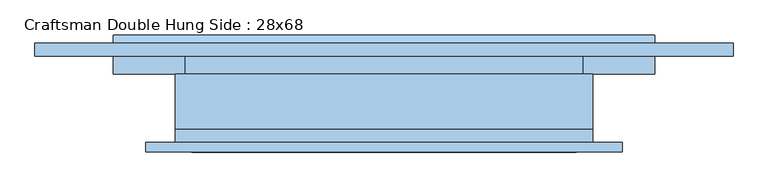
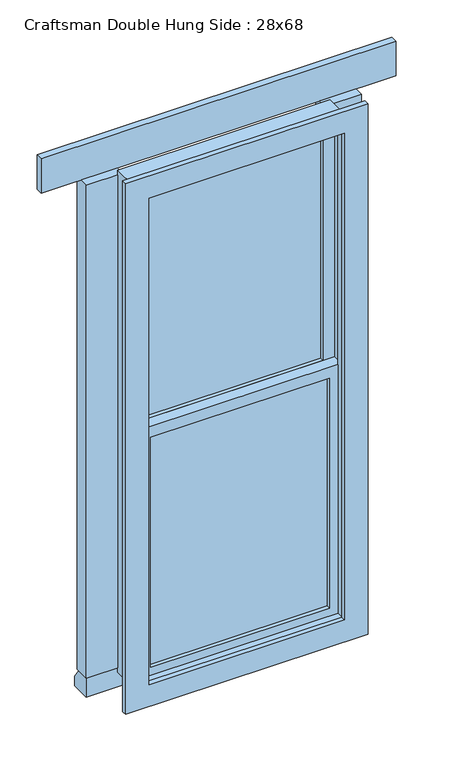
"""IFC4 building model written with IfcOpenShell, lengths in millimetres: window geometry, Craftsman Double Hung Side : 28x68."""

from ifc_helpers import new_model, si_unit, frame, origin, place, context, project, spatial, polyline, outline, extrude, source, transform, mapped, element, save


def craftsman_double_hung_side_28x68_75aaf5e2(model_context):
    return source(origin(), model_context, "Body", "SweptSolid", [
        extrude(outline(polyline([(-342.9, -12.7), (342.9, -12.7), (342.9, -25.4), (-342.9, -25.4), (-342.9, -12.7)])), frame((0.0, 0.0, 723.9), z_axis=(0.0, 0.0, 1.0), x_axis=(1.0, 0.0, 0.0)), (0.0, 0.0, 1.0), 930.275),
        extrude(outline(polyline([(1698.625, -387.35), (679.45, -387.35), (679.45, 387.35), (1698.625, 387.35), (1698.625, -387.35)]), holes=[polyline([(1654.175, -342.9), (1654.175, 342.9), (723.9, 342.9), (723.9, -342.9), (1654.175, -342.9)])]), frame((0.0, -41.275, 0.0), z_axis=(0.0, 1.0, 0.0), x_axis=(0.0, 0.0, 1.0)), (0.0, 0.0, 1.0), 44.45),
        extrude(outline(polyline([(387.35, 127.0), (527.05, 127.0), (527.05, 66.675), (387.35, 66.675), (387.35, 127.0)])), frame((0.0, 0.0, 679.45), z_axis=(0.0, 0.0, 1.0), x_axis=(1.0, 0.0, 0.0)), (0.0, 0.0, 1.0), 1993.9),
        extrude(outline(polyline([(-527.05, 127.0), (-387.35, 127.0), (-387.35, 66.675), (-527.05, 66.675), (-527.05, 127.0)])), frame((0.0, 0.0, 679.45), z_axis=(0.0, 0.0, 1.0), x_axis=(1.0, 0.0, 0.0)), (0.0, 0.0, 1.0), 1993.9),
        extrude(outline(polyline([(2749.55, 463.55), (2749.55, -463.55), (603.25, -463.55), (603.25, 463.55), (2749.55, 463.55)]), holes=[polyline([(2660.65, 374.65), (692.15, 374.65), (692.15, -374.65), (2660.65, -374.65), (2660.65, 374.65)])]), frame((0.0, -85.725, 0.0), z_axis=(0.0, 1.0, 0.0), x_axis=(0.0, 0.0, 1.0)), (0.0, 0.0, 1.0), 19.05),
        extrude(outline(polyline([(342.9, 19.05), (-342.9, 19.05), (-342.9, 31.75), (342.9, 31.75), (342.9, 19.05)])), frame((0.0, 0.0, 1698.625), z_axis=(0.0, 0.0, 1.0), x_axis=(1.0, 0.0, 0.0)), (0.0, 0.0, 1.0), 930.275),
        extrude(outline(polyline([(2673.35, -387.35), (1654.175, -387.35), (1654.175, 387.35), (2673.35, 387.35), (2673.35, -387.35)]), holes=[polyline([(2628.9, -342.9), (2628.9, 342.9), (1698.625, 342.9), (1698.625, -342.9), (2628.9, -342.9)])]), frame((0.0, 3.175, 0.0), z_axis=(0.0, 1.0, 0.0), x_axis=(0.0, 0.0, 1.0)), (0.0, 0.0, 1.0), 44.45),
        extrude(outline(polyline([(2692.4, -406.4), (660.4, -406.4), (660.4, 406.4), (2692.4, 406.4), (2692.4, -406.4)]), holes=[polyline([(2660.65, -374.65), (2660.65, 374.65), (692.15, 374.65), (692.15, -374.65), (2660.65, -374.65)])]), frame((0.0, -66.675, 0.0), z_axis=(0.0, 1.0, 0.0), x_axis=(0.0, 0.0, 1.0)), (0.0, 0.0, 1.0), 25.4),
        extrude(outline(polyline([(2692.4, 406.4), (2692.4, -406.4), (660.4, -406.4), (660.4, 406.4), (2692.4, 406.4)]), holes=[polyline([(2673.35, 387.35), (679.45, 387.35), (679.45, -387.35), (2673.35, -387.35), (2673.35, 387.35)])]), frame((0.0, -41.275, 0.0), z_axis=(0.0, 1.0, 0.0), x_axis=(0.0, 0.0, 1.0)), (0.0, 0.0, 1.0), 107.95),
        extrude(outline(polyline([(-679.45, 127.0), (679.45, 127.0), (679.45, 101.6), (-679.45, 101.6), (-679.45, 127.0)])), frame((0.0, 0.0, 2673.35), z_axis=(0.0, 0.0, 1.0), x_axis=(1.0, 0.0, 0.0)), (0.0, 0.0, 1.0), 139.7),
        extrude(outline(polyline([(117.475, 679.45), (142.875, 641.35), (142.875, 603.25), (66.675, 603.25), (66.675, 679.45), (117.475, 679.45)])), frame((-527.05, 0.0, 0.0), z_axis=(1.0, 0.0, 0.0), x_axis=(0.0, 1.0, 0.0)), (0.0, 0.0, 1.0), 1054.1),
    ])


if __name__ == "__main__":
    model = new_model("IFC4")
    model_context = context("Model", 3, world=origin())
    ifc_project = project(units=[si_unit("LENGTHUNIT", "METRE", prefix="MILLI")], contexts=[model_context])
    site = spatial("IfcSite", under=ifc_project)
    building = spatial("IfcBuilding", under=site)
    placement = place(None, origin())
    craftsman_double_hung_side_28x68_shape = craftsman_double_hung_side_28x68_75aaf5e2(model_context)
    element("IfcWindow", 1, ObjectType="Craftsman Double Hung Side : 28x68", at=placement, inside=building, context=model_context, shape_type="MappedRepresentation", body=[
        mapped(craftsman_double_hung_side_28x68_shape, transform((0.0, 0.0, 0.0), x_axis=(1.0, 0.0, 0.0), y_axis=(0.0, 1.0, 0.0), z_axis=(0.0, 0.0, 1.0))),
    ])
    save(model, "model.ifc")
